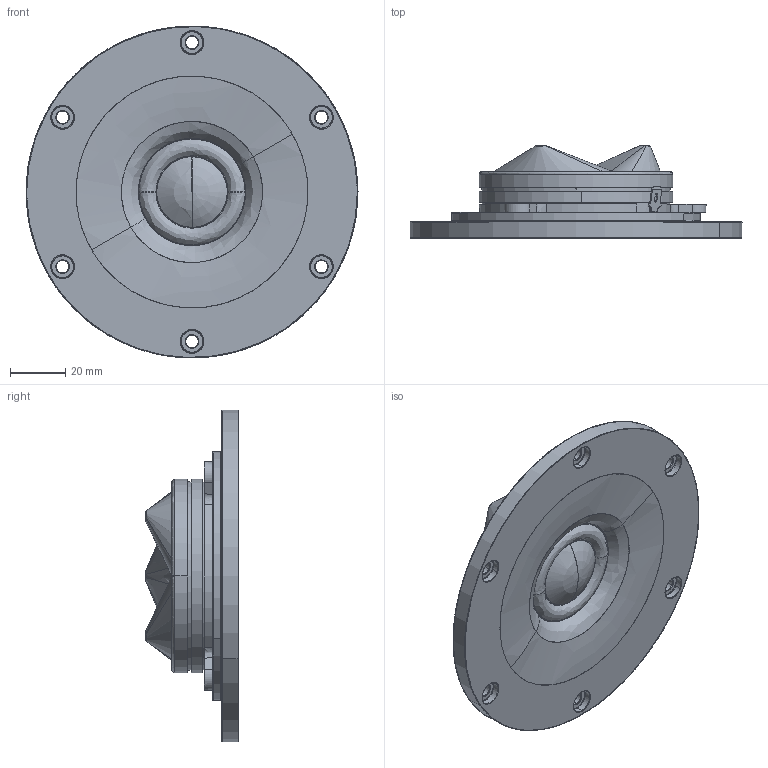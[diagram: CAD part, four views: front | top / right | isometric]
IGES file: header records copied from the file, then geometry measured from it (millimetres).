
Start section: SolidWorks IGES file using analytic representation for surfaces
Global section: file name: W:\TT\WEB 3D ENHEDER VER2\D2908_716000\D2908_716000.IGS; native system: SolidWorks 2024; preprocessor: SolidWorks 2024; author: jsn; date: 240430.131559; units: millimetre
Bounding box: 119.99 x 33.52 x 119.99 mm (x, y, z)
Surface area: 40314.4 mm2 (no closed solid volume)
Topology: 0 solids, 0 shells, 535 faces, 7299 edges, 7269 vertices
Faces by surface type: bspline 360, revolution 175
